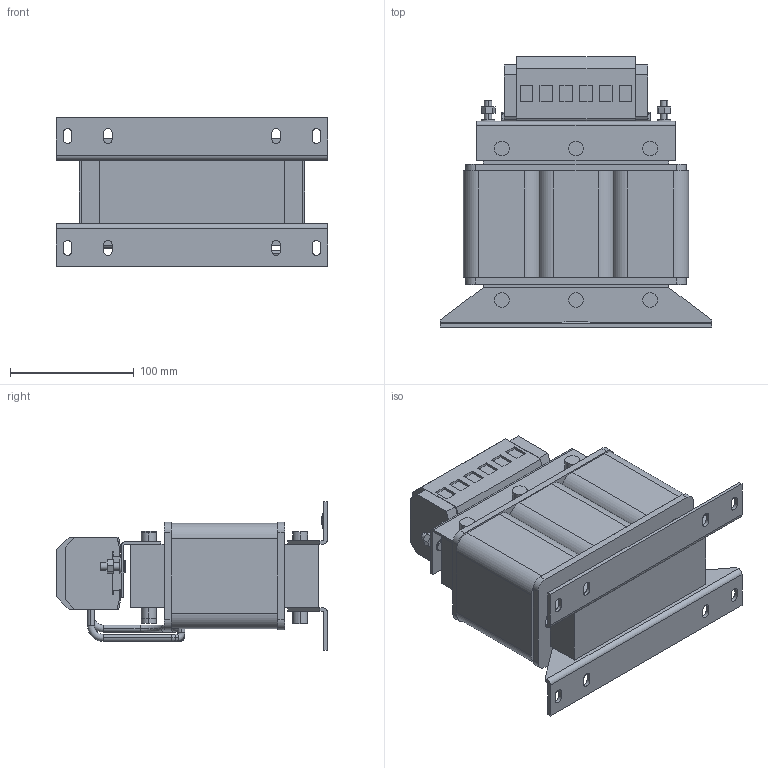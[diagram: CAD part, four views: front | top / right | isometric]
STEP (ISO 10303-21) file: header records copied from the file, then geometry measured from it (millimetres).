
FILE_DESCRIPTION (( 'STEP AP214' ), '1' );
FILE_NAME ('00Z10X0-0019.STEP', '2021-07-15T07:43:36', ( '' ), ( '' ), 'SwSTEP 2.0', 'SolidWorks 2019', '' );
FILE_SCHEMA (( 'AUTOMOTIVE_DESIGN' ));
Length unit declared in the file: millimetre
Products named in the file (1): 00Z10X0-0019
Bounding box: 219 x 218.7 x 120.3 mm (x, y, z)
Volume: 2357148 mm3; surface area: 203852.1 mm2
Topology: 1 solids, 1 shells, 439 faces, 1147 edges, 744 vertices
Faces by surface type: plane 242, cylinder 143, torus 40, bspline 14
Entity records: 15481 total; most frequent: CARTESIAN_POINT 4251, ORIENTED_EDGE 2294, DIRECTION 2237, EDGE_CURVE 1147, AXIS2_PLACEMENT_3D 797, VERTEX_POINT 744, LINE 643, VECTOR 643
